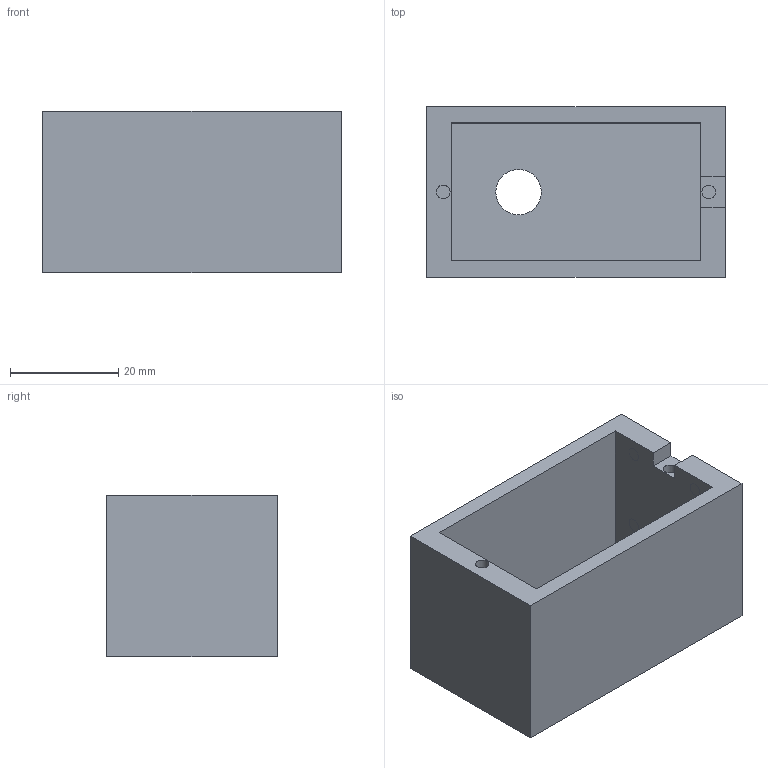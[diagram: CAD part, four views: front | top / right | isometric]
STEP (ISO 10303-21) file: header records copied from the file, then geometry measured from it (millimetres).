
FILE_DESCRIPTION(('FreeCAD Model'),'2;1');
FILE_NAME('Open CASCADE Shape Model','2026-11-08T23:31:28',('FreeCAD'),( 'FreeCAD'),'Open CASCADE STEP processor 7.8','FreeCAD','Unknown');
FILE_SCHEMA(('AUTOMOTIVE_DESIGN { 1 0 10303 214 1 1 1 1 }'));
Length unit declared in the file: millimetre
Products named in the file (1): Open CASCADE STEP translator 7.8 1
Bounding box: 55.2 x 31.5 x 29.9 mm (x, y, z)
Volume: 20599.5 mm3; surface area: 12656.5 mm2
Topology: 1 solids, 1 shells, 27 faces, 57 edges, 38 vertices
Faces by surface type: plane 20, cylinder 7
Full cylindrical faces by diameter (mm): 2.5 x6, 8.4 x1
Entity records: 739 total; most frequent: DIRECTION 127, CARTESIAN_POINT 123, ORIENTED_EDGE 114, EDGE_CURVE 57, LINE 43, VECTOR 43, AXIS2_PLACEMENT_3D 42, VERTEX_POINT 38
